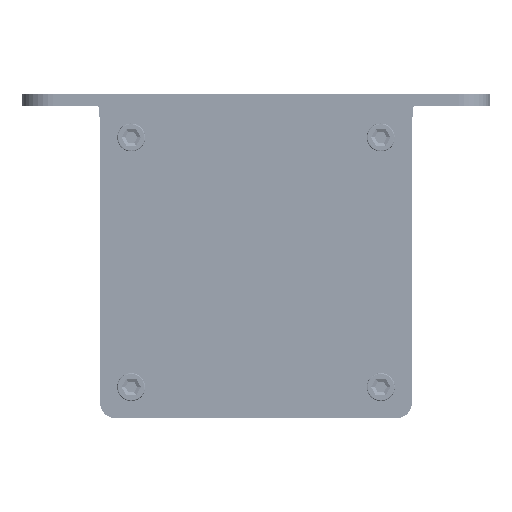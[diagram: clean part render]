
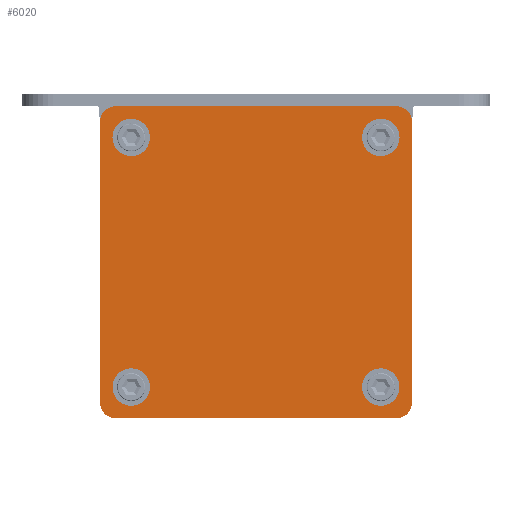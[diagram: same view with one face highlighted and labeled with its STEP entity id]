
A CAD part, front view. The second image highlights one B-rep face of the part: STEP entity #6020.
In plain terms, the highlighted planar face has unit normal (0, -1, 0).
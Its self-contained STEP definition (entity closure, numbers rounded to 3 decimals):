
#2133=CARTESIAN_POINT('',(-45.,-275.5,-45.));
#2134=DIRECTION('',(0.,-1.,0.));
#2135=DIRECTION('',(-1.,0.,0.));
#2136=AXIS2_PLACEMENT_3D('',#2133,#2134,#2135);
#2138=DIRECTION('',(0.,0.,-1.));
#2139=VECTOR('',#2138,90.);
#2140=CARTESIAN_POINT('',(-50.,-275.5,45.));
#2141=LINE('',#2140,#2139);
#2142=CARTESIAN_POINT('',(-45.,-275.5,45.));
#2143=DIRECTION('',(0.,-1.,0.));
#2144=DIRECTION('',(0.,0.,1.));
#2145=AXIS2_PLACEMENT_3D('',#2142,#2143,#2144);
#2147=DIRECTION('',(-1.,0.,0.));
#2148=VECTOR('',#2147,90.);
#2149=CARTESIAN_POINT('',(45.,-275.5,50.));
#2150=LINE('',#2149,#2148);
#2151=CARTESIAN_POINT('',(45.,-275.5,45.));
#2152=DIRECTION('',(0.,-1.,0.));
#2153=DIRECTION('',(1.,0.,0.));
#2154=AXIS2_PLACEMENT_3D('',#2151,#2152,#2153);
#2156=DIRECTION('',(0.,0.,1.));
#2157=VECTOR('',#2156,90.);
#2158=CARTESIAN_POINT('',(50.,-275.5,-45.));
#2159=LINE('',#2158,#2157);
#2160=CARTESIAN_POINT('',(45.,-275.5,-45.));
#2161=DIRECTION('',(0.,-1.,0.));
#2162=DIRECTION('',(0.,0.,-1.));
#2163=AXIS2_PLACEMENT_3D('',#2160,#2161,#2162);
#2165=DIRECTION('',(1.,0.,0.));
#2166=VECTOR('',#2165,90.);
#2167=CARTESIAN_POINT('',(-45.,-275.5,-50.));
#2168=LINE('',#2167,#2166);
#2169=CARTESIAN_POINT('',(-40.,-275.5,-40.));
#2170=DIRECTION('',(0.,-1.,0.));
#2171=DIRECTION('',(0.,0.,1.));
#2172=AXIS2_PLACEMENT_3D('',#2169,#2170,#2171);
#2174=CARTESIAN_POINT('',(-40.,-275.5,-40.));
#2175=DIRECTION('',(0.,-1.,0.));
#2176=DIRECTION('',(0.,0.,-1.));
#2177=AXIS2_PLACEMENT_3D('',#2174,#2175,#2176);
#2179=CARTESIAN_POINT('',(-40.,-275.5,40.));
#2180=DIRECTION('',(0.,-1.,0.));
#2181=DIRECTION('',(0.,0.,1.));
#2182=AXIS2_PLACEMENT_3D('',#2179,#2180,#2181);
#2184=CARTESIAN_POINT('',(-40.,-275.5,40.));
#2185=DIRECTION('',(0.,-1.,0.));
#2186=DIRECTION('',(0.,0.,-1.));
#2187=AXIS2_PLACEMENT_3D('',#2184,#2185,#2186);
#2189=CARTESIAN_POINT('',(40.,-275.5,-40.));
#2190=DIRECTION('',(0.,-1.,0.));
#2191=DIRECTION('',(0.,0.,1.));
#2192=AXIS2_PLACEMENT_3D('',#2189,#2190,#2191);
#2194=CARTESIAN_POINT('',(40.,-275.5,-40.));
#2195=DIRECTION('',(0.,-1.,0.));
#2196=DIRECTION('',(0.,0.,-1.));
#2197=AXIS2_PLACEMENT_3D('',#2194,#2195,#2196);
#2199=CARTESIAN_POINT('',(40.,-275.5,40.));
#2200=DIRECTION('',(0.,-1.,0.));
#2201=DIRECTION('',(0.,0.,1.));
#2202=AXIS2_PLACEMENT_3D('',#2199,#2200,#2201);
#2204=CARTESIAN_POINT('',(40.,-275.5,40.));
#2205=DIRECTION('',(0.,-1.,0.));
#2206=DIRECTION('',(0.,0.,-1.));
#2207=AXIS2_PLACEMENT_3D('',#2204,#2205,#2206);
#2517=CARTESIAN_POINT('',(-50.,-275.5,-45.));
#2518=CARTESIAN_POINT('',(-45.,-275.5,-50.));
#2519=VERTEX_POINT('',#2517);
#2520=VERTEX_POINT('',#2518);
#2521=CARTESIAN_POINT('',(45.,-275.5,-50.));
#2522=VERTEX_POINT('',#2521);
#2523=CARTESIAN_POINT('',(50.,-275.5,-45.));
#2524=VERTEX_POINT('',#2523);
#2525=CARTESIAN_POINT('',(50.,-275.5,45.));
#2526=VERTEX_POINT('',#2525);
#2527=CARTESIAN_POINT('',(45.,-275.5,50.));
#2528=VERTEX_POINT('',#2527);
#2529=CARTESIAN_POINT('',(-45.,-275.5,50.));
#2530=VERTEX_POINT('',#2529);
#2531=CARTESIAN_POINT('',(-50.,-275.5,45.));
#2532=VERTEX_POINT('',#2531);
#2545=CARTESIAN_POINT('',(-40.,-275.5,-36.75));
#2546=CARTESIAN_POINT('',(-40.,-275.5,-43.25));
#2547=VERTEX_POINT('',#2545);
#2548=VERTEX_POINT('',#2546);
#2549=CARTESIAN_POINT('',(-40.,-275.5,43.25));
#2550=CARTESIAN_POINT('',(-40.,-275.5,36.75));
#2551=VERTEX_POINT('',#2549);
#2552=VERTEX_POINT('',#2550);
#2553=CARTESIAN_POINT('',(40.,-275.5,-36.75));
#2554=CARTESIAN_POINT('',(40.,-275.5,-43.25));
#2555=VERTEX_POINT('',#2553);
#2556=VERTEX_POINT('',#2554);
#2557=CARTESIAN_POINT('',(40.,-275.5,43.25));
#2558=CARTESIAN_POINT('',(40.,-275.5,36.75));
#2559=VERTEX_POINT('',#2557);
#2560=VERTEX_POINT('',#2558);
#5975=CARTESIAN_POINT('',(0.,-275.5,0.));
#5976=DIRECTION('',(0.,-1.,0.));
#5977=DIRECTION('',(0.,0.,1.));
#5978=AXIS2_PLACEMENT_3D('',#5975,#5976,#5977);
#5979=PLANE('',#5978);
#5981=ORIENTED_EDGE('',*,*,#5980,.F.);
#5983=ORIENTED_EDGE('',*,*,#5982,.F.);
#5985=ORIENTED_EDGE('',*,*,#5984,.F.);
#5987=ORIENTED_EDGE('',*,*,#5986,.F.);
#5989=ORIENTED_EDGE('',*,*,#5988,.F.);
#5991=ORIENTED_EDGE('',*,*,#5990,.F.);
#5993=ORIENTED_EDGE('',*,*,#5992,.F.);
#5995=ORIENTED_EDGE('',*,*,#5994,.F.);
#5996=EDGE_LOOP('',(#5981,#5983,#5985,#5987,#5989,#5991,#5993,#5995));
#5997=FACE_OUTER_BOUND('',#5996,.F.);
#5998=ORIENTED_EDGE('',*,*,#5955,.T.);
#5999=ORIENTED_EDGE('',*,*,#5969,.T.);
#6000=EDGE_LOOP('',(#5998,#5999));
#6001=FACE_BOUND('',#6000,.F.);
#6003=ORIENTED_EDGE('',*,*,#6002,.T.);
#6005=ORIENTED_EDGE('',*,*,#6004,.T.);
#6006=EDGE_LOOP('',(#6003,#6005));
#6007=FACE_BOUND('',#6006,.F.);
#6009=ORIENTED_EDGE('',*,*,#6008,.T.);
#6011=ORIENTED_EDGE('',*,*,#6010,.T.);
#6012=EDGE_LOOP('',(#6009,#6011));
#6013=FACE_BOUND('',#6012,.F.);
#6015=ORIENTED_EDGE('',*,*,#6014,.T.);
#6017=ORIENTED_EDGE('',*,*,#6016,.T.);
#6018=EDGE_LOOP('',(#6015,#6017));
#6019=FACE_BOUND('',#6018,.F.);
#6020=ADVANCED_FACE('',(#5997,#6001,#6007,#6013,#6019),#5979,.T.);
#2137=CIRCLE('',#2136,5.);
#2146=CIRCLE('',#2145,5.);
#2155=CIRCLE('',#2154,5.);
#2164=CIRCLE('',#2163,5.);
#2173=CIRCLE('',#2172,3.25);
#2178=CIRCLE('',#2177,3.25);
#2183=CIRCLE('',#2182,3.25);
#2188=CIRCLE('',#2187,3.25);
#2193=CIRCLE('',#2192,3.25);
#2198=CIRCLE('',#2197,3.25);
#2203=CIRCLE('',#2202,3.25);
#2208=CIRCLE('',#2207,3.25);
#5955=EDGE_CURVE('',#2547,#2548,#2173,.T.);
#5969=EDGE_CURVE('',#2548,#2547,#2178,.T.);
#5980=EDGE_CURVE('',#2519,#2520,#2137,.T.);
#5982=EDGE_CURVE('',#2532,#2519,#2141,.T.);
#5984=EDGE_CURVE('',#2530,#2532,#2146,.T.);
#5986=EDGE_CURVE('',#2528,#2530,#2150,.T.);
#5988=EDGE_CURVE('',#2526,#2528,#2155,.T.);
#5990=EDGE_CURVE('',#2524,#2526,#2159,.T.);
#5992=EDGE_CURVE('',#2522,#2524,#2164,.T.);
#5994=EDGE_CURVE('',#2520,#2522,#2168,.T.);
#6002=EDGE_CURVE('',#2551,#2552,#2183,.T.);
#6004=EDGE_CURVE('',#2552,#2551,#2188,.T.);
#6008=EDGE_CURVE('',#2555,#2556,#2193,.T.);
#6010=EDGE_CURVE('',#2556,#2555,#2198,.T.);
#6014=EDGE_CURVE('',#2559,#2560,#2203,.T.);
#6016=EDGE_CURVE('',#2560,#2559,#2208,.T.);
